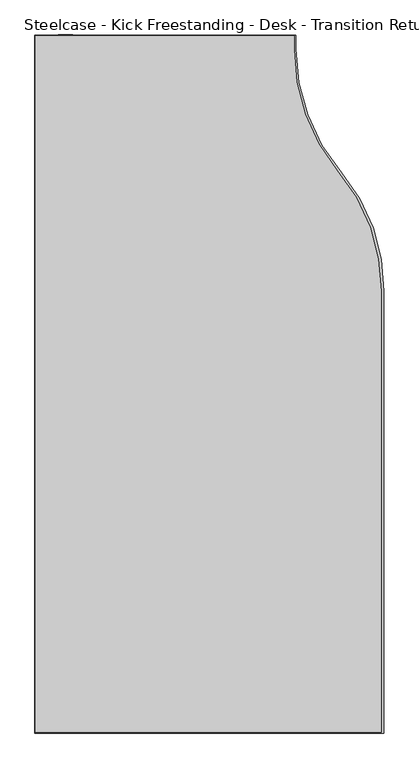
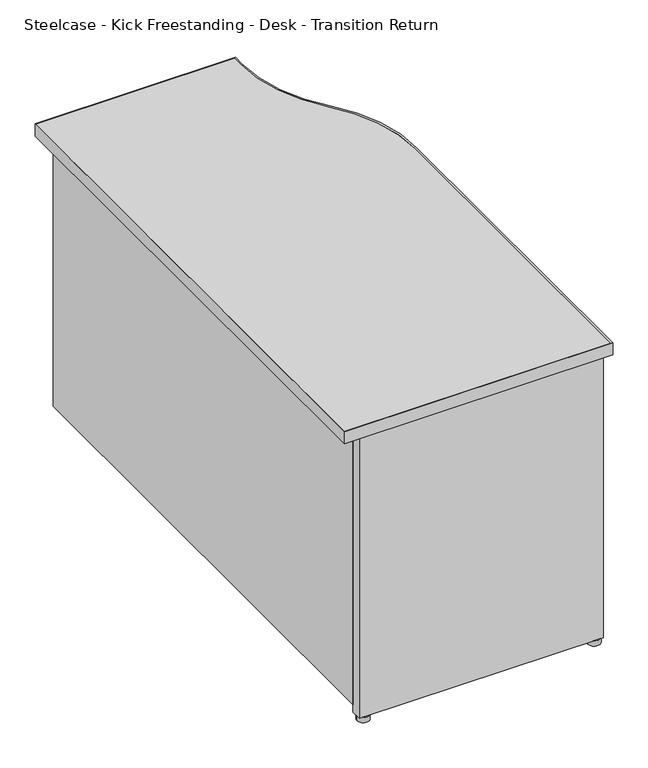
"""IFC4 building model written with IfcOpenShell, lengths in millimetres: furniture geometry, Steelcase - Kick Freestanding - Desk - Transition Return : 18D x 48W - Left - Full Panel."""

from ifc_helpers import new_model, si_unit, point, frame, frame_2d, origin, origin_with_axes, place, context, project, spatial, polyline, circle_curve, trimmed, segment, composite_curve, outline, extrude, source, transform, mapped, element, save


def steelcase_kick_freestanding_desk_transition_return_be0b5b9c(model_context):
    return source(origin(), model_context, "Body", "SweptSolid", [
        extrude(outline(composite_curve([segment(trimmed(circle_curve(frame_2d((2220.2474425, -1741.1225152)), 13.97), [point((2206.2774425, -1741.1225152))], [point((2234.2174425, -1741.1225152))], False, "CARTESIAN"), True, "CONTINUOUS"), segment(trimmed(circle_curve(frame_2d((2220.2474425, -1741.1225152)), 13.97), [point((2234.2174425, -1741.1225152))], [point((2206.2774425, -1741.1225152))], False, "CARTESIAN"), True, "CONTINUOUS")], self_intersect=False)), origin_with_axes(), (0.0, 0.0, 1.0), 12.7),
        extrude(outline(composite_curve([segment(trimmed(circle_curve(frame_2d((2745.2654425, -1741.0400875)), 13.97), [point((2731.2954425, -1741.0400875))], [point((2759.2354425, -1741.0400875))], False, "CARTESIAN"), True, "CONTINUOUS"), segment(trimmed(circle_curve(frame_2d((2745.2654425, -1741.0400875)), 13.97), [point((2759.2354425, -1741.0400875))], [point((2731.2954425, -1741.0400875))], False, "CARTESIAN"), True, "CONTINUOUS")], self_intersect=False)), origin_with_axes(), (0.0, 0.0, 1.0), 12.7),
        extrude(outline(composite_curve([segment(polyline([(2616.8176592, -547.8051152), (2616.8176592, -572.1320079)]), True, "CONTINUOUS"), segment(trimmed(circle_curve(frame_2d((2941.6463505, -574.5942763)), 324.8380233), [point((2616.8176592, -572.1320079))], [point((2692.5587903, -783.1011797))], True, "CARTESIAN"), True, "CONTINUOUS"), segment(trimmed(circle_curve(frame_2d((2440.4841513, -994.1085152)), 328.7335079), [point((2692.5587903, -783.1011797))], [point((2769.2176592, -994.1085152))], False, "CARTESIAN"), True, "CONTINUOUS"), segment(polyline([(2769.2176592, -994.1085152), (2769.2176592, -1764.2619332), (2164.8500425, -1764.2619332), (2164.8500425, -547.8051152), (2616.8176592, -547.8051152)]), True, "CONTINUOUS")], self_intersect=False)), frame((0.0, 0.0, 694.944), z_axis=(0.0, 0.0, 1.0), x_axis=(1.0, 0.0, 0.0)), (0.0, 0.0, 1.0), 28.956),
        extrude(outline(composite_curve([segment(polyline([(2619.7894255, -546.8145152), (2619.7894255, -571.0836731)]), True, "CONTINUOUS"), segment(trimmed(circle_curve(frame_2d((2951.3460478, -571.0836731)), 331.5566223), [point((2619.7894255, -571.0836731))], [point((2699.261298, -786.4509703))], True, "CARTESIAN"), True, "CONTINUOUS"), segment(trimmed(circle_curve(frame_2d((2463.6949436, -987.7058619)), 309.8306613), [point((2699.261298, -786.4509703))], [point((2773.4594425, -994.1085152))], False, "CARTESIAN"), True, "CONTINUOUS"), segment(polyline([(2773.4594425, -994.1085152), (2773.4594425, -1766.0145152), (2163.8594425, -1766.0145152), (2163.8594425, -546.8145152), (2619.7894255, -546.8145152)]), True, "CONTINUOUS")], self_intersect=False), holes=[composite_curve([segment(polyline([(2616.8176592, -547.8051152), (2164.8500425, -547.8051152), (2164.8500425, -1764.2619332), (2769.2176592, -1764.2619332), (2769.2176592, -994.1085152)]), True, "CONTINUOUS"), segment(trimmed(circle_curve(frame_2d((2440.4841513, -994.1085152)), 328.7335079), [point((2769.2176592, -994.1085152))], [point((2692.5587903, -783.1011797))], True, "CARTESIAN"), True, "CONTINUOUS"), segment(trimmed(circle_curve(frame_2d((2941.6463505, -574.5942763)), 324.8380233), [point((2692.5587903, -783.1011797))], [point((2616.8176592, -572.1320079))], False, "CARTESIAN"), True, "CONTINUOUS"), segment(polyline([(2616.8176592, -572.1320079), (2616.8176592, -547.8051152)]), True, "CONTINUOUS")], self_intersect=False)]), frame((0.0, 0.0, 694.944), z_axis=(0.0, 0.0, 1.0), x_axis=(1.0, 0.0, 0.0)), (0.0, 0.0, 1.0), 28.956),
        extrude(outline(polyline([(2205.0074425, -1728.0669041), (2328.2736437, -1728.0669041), (2328.2736437, -1750.4951136), (2427.9940467, -1750.4951136), (2427.9940467, -1728.0669041), (2536.7314502, -1728.0669041), (2536.7314502, -1750.4951136), (2636.4518532, -1750.4951136), (2636.4518532, -1728.0669041), (2759.4894376, -1728.0669041), (2759.4894376, -1752.5525152), (2205.0074425, -1752.5525152), (2205.0074425, -1728.0669041)])), frame((0.0, 0.0, 12.7), z_axis=(0.0, 0.0, 1.0), x_axis=(1.0, 0.0, 0.0)), (0.0, 0.0, 1.0), 682.244),
        extrude(outline(polyline([(2230.4074426, -546.0525152), (2230.4074426, -1728.0669041), (2205.0074425, -1728.0669041), (2205.0074425, -546.0525152), (2230.4074426, -546.0525152)])), frame((0.0, 0.0, 31.242), z_axis=(0.0, 0.0, 1.0), x_axis=(1.0, 0.0, 0.0)), (0.0, 0.0, 1.0), 663.702),
    ])


if __name__ == "__main__":
    model = new_model("IFC4")
    model_context = context("Model", 3, world=origin())
    ifc_project = project(units=[si_unit("LENGTHUNIT", "METRE", prefix="MILLI")], contexts=[model_context])
    site = spatial("IfcSite", under=ifc_project)
    building = spatial("IfcBuilding", under=site)
    placement = place(None, origin())
    steelcase_kick_freestanding_desk_transition_return_shape = steelcase_kick_freestanding_desk_transition_return_be0b5b9c(model_context)
    element("IfcFurniture", 1, ObjectType="Steelcase - Kick Freestanding - Desk - Transition Return : 18D x 48W - Left - Full Panel", at=placement, inside=building, context=model_context, shape_type="MappedRepresentation", body=[
        mapped(steelcase_kick_freestanding_desk_transition_return_shape, transform((0.0, 0.0, 0.0), x_axis=(1.0, 0.0, 0.0), y_axis=(0.0, 1.0, 0.0), z_axis=(0.0, 0.0, 1.0))),
    ])
    save(model, "model.ifc")
